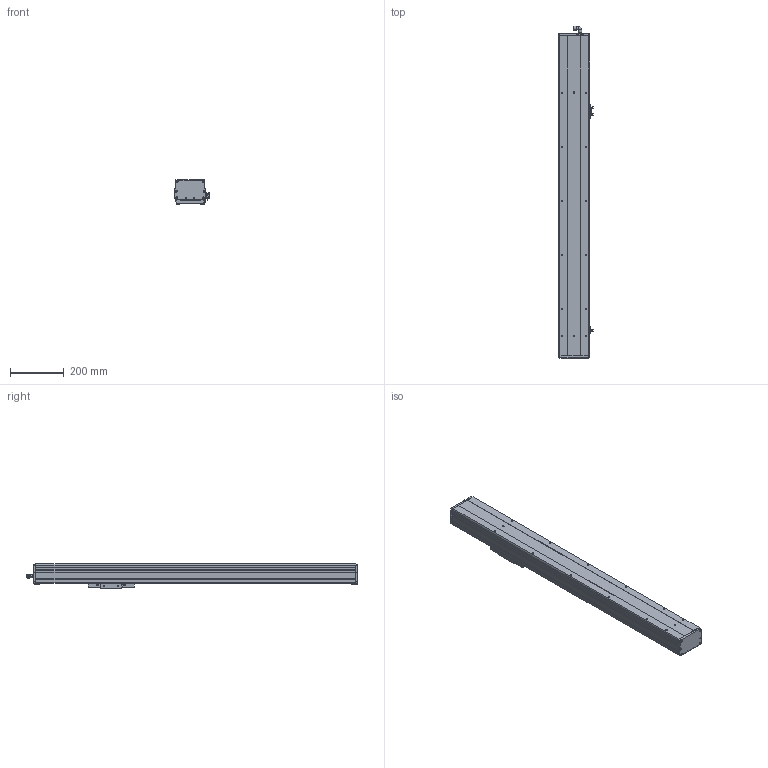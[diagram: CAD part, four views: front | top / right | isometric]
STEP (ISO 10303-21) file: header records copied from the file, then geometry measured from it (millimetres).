
FILE_DESCRIPTION (( 'STEP AP203' ), '1' );
FILE_NAME ('16.STEP', '2021-01-06T03:32:45', ( '' ), ( '' ), 'SwSTEP 2.0', 'SolidWorks 2016', '' );
FILE_SCHEMA (( 'CONFIG_CONTROL_DESIGN' ));
Length unit declared in the file: millimetre
Products named in the file (9): 16; BCH11-M-HZ-01; BCH11-M-01; BCH11-M-02; BCH11-M-05; BCH11-M-10; BCH11-M-菁釱; BCH11-M-06; BCH11-M-04
Assembly tree (11 placements, depth 2):
  16
    BCH11-M-菁釱
    BCH11-M-HZ-01
    BCH11-M-01
    BCH11-M-02  x2
    BCH11-M-04  x3
    BCH11-M-05
    BCH11-M-06
    BCH11-M-10
Bounding box: 127.7 x 1230.93 x 90 mm (x, y, z)
Volume: 3157305.3 mm3; surface area: 1022375.3 mm2
Topology: 19 solids, 19 shells, 1193 faces, 3051 edges, 1928 vertices
Faces by surface type: plane 737, cylinder 346, cone 84, bspline 12, sphere 12, torus 2
Entity records: 29028 total; most frequent: CARTESIAN_POINT 5192, DIRECTION 4855, ORIENTED_EDGE 4610, EDGE_CURVE 2305, AXIS2_PLACEMENT_3D 1645, LINE 1565, VECTOR 1565, VERTEX_POINT 1476
